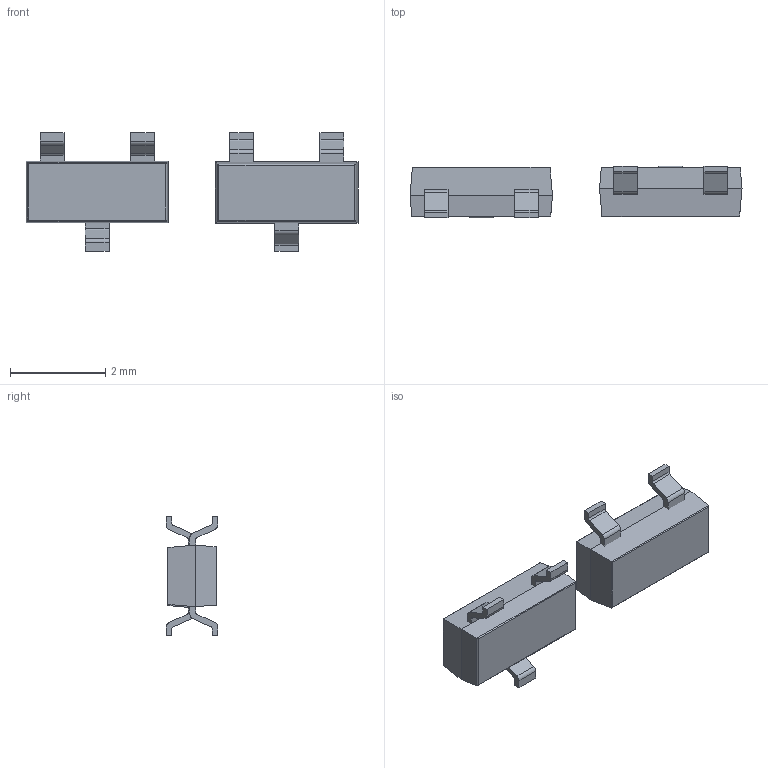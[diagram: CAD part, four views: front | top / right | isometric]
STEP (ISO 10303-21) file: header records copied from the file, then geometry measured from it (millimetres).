
FILE_DESCRIPTION (( 'STEP AP214' ), '1' );
FILE_NAME ('SOT-23.STEP', '2023-06-24T16:04:50', ( '' ), ( '' ), 'SwSTEP 2.0', 'SolidWorks 2020', '' );
FILE_SCHEMA (( 'AUTOMOTIVE_DESIGN' ));
Length unit declared in the file: millimetre
Products named in the file (3): 錨璃2; SOT-23; 錨璃1
Assembly tree (4 placements, depth 2):
  SOT-23
    錨璃1  x2
    錨璃2  x2
Bounding box: 6.99 x 1.09 x 2.5 mm (x, y, z)
Volume: 8.1 mm3; surface area: 39.3 mm2
Topology: 8 solids, 8 shells, 120 faces, 288 edges, 184 vertices
Faces by surface type: plane 80, cylinder 40
Entity records: 1860 total; most frequent: CARTESIAN_POINT 327, DIRECTION 294, ORIENTED_EDGE 288, EDGE_CURVE 144, LINE 112, VECTOR 112, VERTEX_POINT 92, AXIS2_PLACEMENT_3D 91
